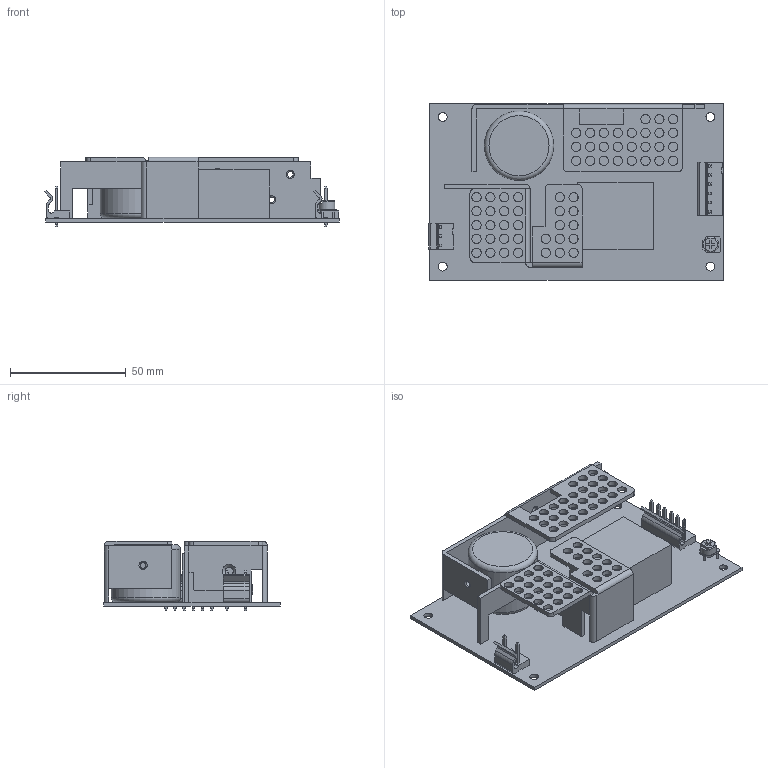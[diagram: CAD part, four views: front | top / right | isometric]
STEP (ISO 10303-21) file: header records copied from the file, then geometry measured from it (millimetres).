
FILE_DESCRIPTION((''),'2;1');
FILE_NAME('W:\mechanical\機構工程圖\3D圖檔\3D Outline-2020\已完成待審核\2020.07.24\RPT-65.stp','2020-07-23T10:03:30',('shirley'),(''),'Autodesk Inventor 2010','Autodesk Inventor 2010','');
FILE_SCHEMA(('AUTOMOTIVE_DESIGN { 1 0 10303 214 1 1 1 1 }'));
Length unit declared in the file: millimetre
Products named in the file (9): RPT-65; PCB; 5273-03N2; 5273-06; VR-1; C5; T1; HS-169; HS-170
Assembly tree (8 placements, depth 2):
  RPT-65
    PCB
    5273-03N2
    5273-06
    VR-1
    C5
    T1
    HS-169
    HS-170
Bounding box: 127.47 x 76.2 x 30 mm (x, y, z)
Volume: 68029.3 mm3; surface area: 47298.5 mm2
Topology: 8 solids, 8 shells, 398 faces, 1231 edges, 1030 vertices
Faces by surface type: plane 288, cylinder 100, torus 9, bspline 1
Full cylindrical faces by diameter (mm): 0.8 x3, 2.5 x6, 3.5 x1, 3.8 x4, 4 x59, 6.747 x1, 30 x1
Entity records: 14443 total; most frequent: CARTESIAN_POINT 2396, DIRECTION 2264, ORIENTED_EDGE 1818, EDGE_CURVE 909, VECTOR 850, LINE 850, AXIS2_PLACEMENT_3D 707, EDGE_LOOP 645
